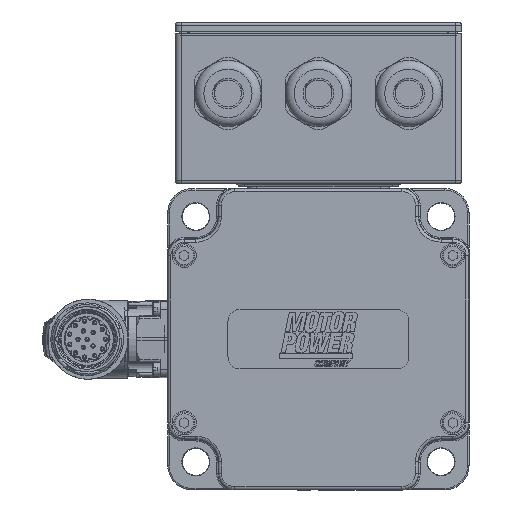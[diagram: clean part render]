
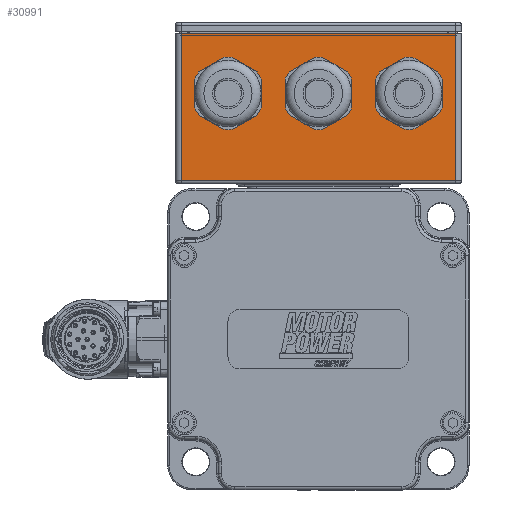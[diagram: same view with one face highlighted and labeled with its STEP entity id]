
A CAD part, front view. The second image highlights one B-rep face of the part: STEP entity #30991.
In plain terms, the highlighted planar face has unit normal (0, -1, 0).
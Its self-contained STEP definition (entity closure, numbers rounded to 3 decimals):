
#2419=LINE('',#63400,#4424);
#2435=LINE('',#63469,#4440);
#2436=LINE('',#63471,#4441);
#2437=LINE('',#63473,#4442);
#4424=VECTOR('',#51466,1000.);
#4440=VECTOR('',#51524,1000.);
#4441=VECTOR('',#51525,1000.);
#4442=VECTOR('',#51526,1000.);
#6168=PLANE('',#45451);
#11186=ORIENTED_EDGE('',*,*,#17917,.T.);
#11187=ORIENTED_EDGE('',*,*,#17918,.T.);
#11188=ORIENTED_EDGE('',*,*,#17919,.T.);
#11189=ORIENTED_EDGE('',*,*,#17920,.T.);
#11190=ORIENTED_EDGE('',*,*,#17921,.T.);
#11191=ORIENTED_EDGE('',*,*,#17922,.T.);
#11192=ORIENTED_EDGE('',*,*,#17886,.T.);
#17886=EDGE_CURVE('',#21634,#21633,#2419,.T.);
#17917=EDGE_CURVE('',#21663,#21663,#23788,.T.);
#17918=EDGE_CURVE('',#21664,#21664,#23789,.T.);
#17919=EDGE_CURVE('',#21665,#21665,#23790,.T.);
#17920=EDGE_CURVE('',#21633,#21666,#2435,.T.);
#17921=EDGE_CURVE('',#21666,#21667,#2436,.F.);
#17922=EDGE_CURVE('',#21667,#21634,#2437,.F.);
#21633=VERTEX_POINT('',#63399);
#21634=VERTEX_POINT('',#63401);
#21663=VERTEX_POINT('',#63464);
#21664=VERTEX_POINT('',#63466);
#21665=VERTEX_POINT('',#63468);
#21666=VERTEX_POINT('',#63470);
#21667=VERTEX_POINT('',#63472);
#23788=CIRCLE('',#45452,8.63);
#23789=CIRCLE('',#45453,8.63);
#23790=CIRCLE('',#45454,8.63);
#25853=EDGE_LOOP('',(#11186));
#25854=EDGE_LOOP('',(#11187));
#25855=EDGE_LOOP('',(#11188));
#25856=EDGE_LOOP('',(#11189,#11190,#11191,#11192));
#28526=FACE_BOUND('',#25853,.T.);
#28527=FACE_BOUND('',#25854,.T.);
#28528=FACE_BOUND('',#25855,.T.);
#28529=FACE_BOUND('',#25856,.T.);
#30991=ADVANCED_FACE('',(#28526,#28527,#28528,#28529),#6168,.T.);
#45451=AXIS2_PLACEMENT_3D('',#63462,#51516,#51517);
#45452=AXIS2_PLACEMENT_3D('',#63463,#51518,#51519);
#45453=AXIS2_PLACEMENT_3D('',#63465,#51520,#51521);
#45454=AXIS2_PLACEMENT_3D('',#63467,#51522,#51523);
#51466=DIRECTION('',(-1.,0.,0.));
#51516=DIRECTION('',(0.,-1.,0.));
#51517=DIRECTION('',(1.,0.,0.));
#51518=DIRECTION('',(0.,1.,0.));
#51519=DIRECTION('',(1.,0.,0.));
#51520=DIRECTION('',(0.,1.,0.));
#51521=DIRECTION('',(1.,0.,0.));
#51522=DIRECTION('',(0.,1.,0.));
#51523=DIRECTION('',(1.,0.,0.));
#51524=DIRECTION('',(0.,0.,-1.));
#51525=DIRECTION('',(-1.,0.,0.));
#51526=DIRECTION('',(0.,0.,-1.));
#63399=CARTESIAN_POINT('',(-45.5,-60.,50.));
#63400=CARTESIAN_POINT('',(47.5,-60.,50.));
#63401=CARTESIAN_POINT('',(45.5,-60.,50.));
#63462=CARTESIAN_POINT('',(47.5,-60.,50.));
#63463=CARTESIAN_POINT('',(30.,-60.,30.));
#63464=CARTESIAN_POINT('',(38.63,-60.,30.));
#63465=CARTESIAN_POINT('',(0.,-60.,30.));
#63466=CARTESIAN_POINT('',(8.63,-60.,30.));
#63467=CARTESIAN_POINT('',(-30.,-60.,30.));
#63468=CARTESIAN_POINT('',(-21.37,-60.,30.));
#63469=CARTESIAN_POINT('',(-45.5,-60.,50.));
#63470=CARTESIAN_POINT('',(-45.5,-60.,1.));
#63471=CARTESIAN_POINT('',(47.5,-60.,1.));
#63472=CARTESIAN_POINT('',(45.5,-60.,1.));
#63473=CARTESIAN_POINT('',(45.5,-60.,50.));
